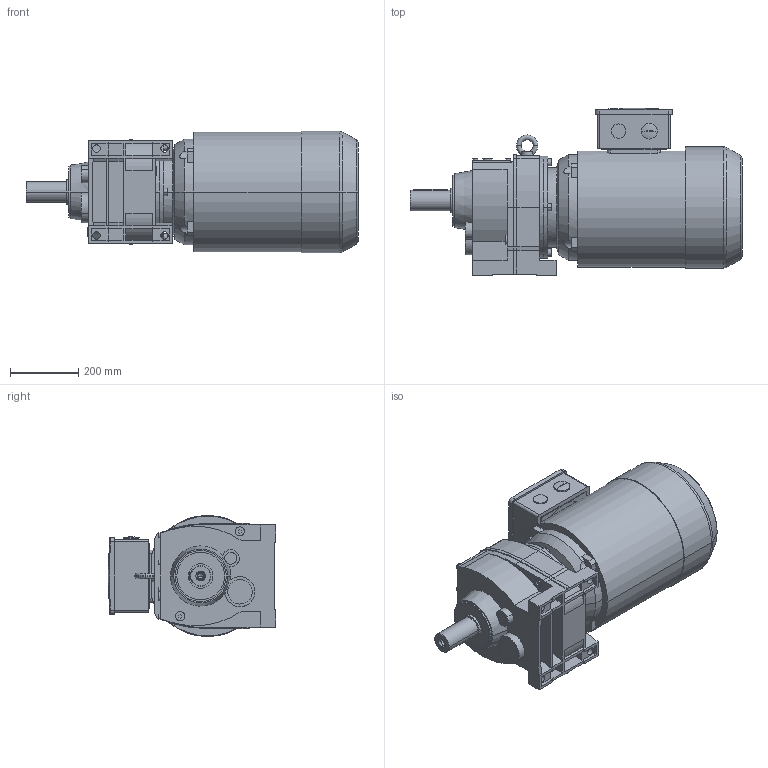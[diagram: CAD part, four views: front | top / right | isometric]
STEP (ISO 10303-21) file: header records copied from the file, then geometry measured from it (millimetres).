
FILE_DESCRIPTION(('STEP AP214'),'1');
FILE_NAME('STEP-File.stp','2018-01-01T00:00:00',(' '),('KEB'),' ','KEB-DRIVE',' ');
FILE_SCHEMA(('AUTOMOTIVE_DESIGN { 1 0 10303 214 1 1 1 1 }'));
Length unit declared in the file: millimetre
Products named in the file (9): g6a; w6_we_60x120; cy6; a18; kka05; PLUG_M40; SCREW-PLUG_M40; na18; G62A DA180LB4§CAD13
Assembly tree (8 placements, depth 2):
  G62A DA180LB4§CAD13
    g6a
    w6_we_60x120
    cy6
    a18
    kka05
    PLUG_M40
    SCREW-PLUG_M40
    na18
Bounding box: 975 x 491 x 356 mm (x, y, z)
Volume: 78773569.8 mm3; surface area: 2066117.3 mm2
Topology: 8 solids, 8 shells, 724 faces, 2331 edges, 1991 vertices
Faces by surface type: plane 557, cylinder 137, cone 18, torus 12
Entity records: 31149 total; most frequent: CARTESIAN_POINT 8193, ORIENTED_EDGE 4658, DIRECTION 3018, EDGE_CURVE 2329, VERTEX_POINT 1991, VECTOR 1948, LINE 1948, EDGE_LOOP 1104
